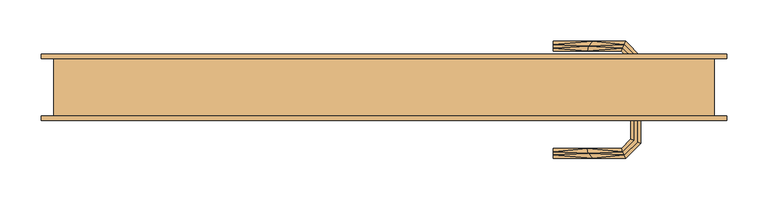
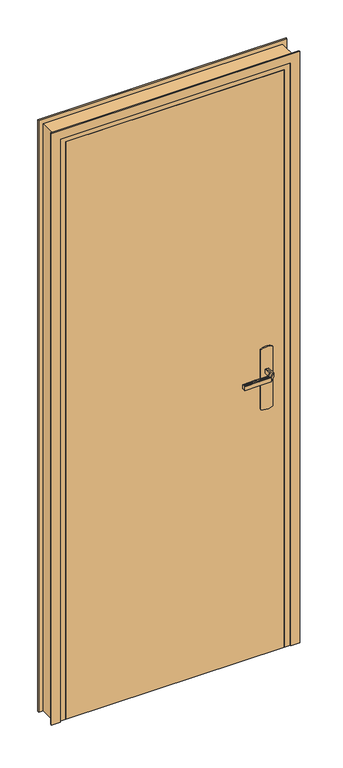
"""IFC4 building model written with IfcOpenShell, lengths in millimetres: door geometry, Portes - Int. Simple - PP (0.73m x 2.04m)."""

from ifc_helpers import new_model, si_unit, point, frame, frame_2d, origin, origin_with_axes, place, context, project, spatial, polyline, circle_curve, trimmed, segment, composite_curve, outline, extrude, faceted_brep, source, transform, mapped, element, save


def door_bff1ae0a(model_context):
    return source(origin(), model_context, "Body", "SolidModel", [
        extrude(outline(composite_curve([segment(polyline([(1080.0, 755.0), (870.0, 755.0)]), True, "CONTINUOUS"), segment(trimmed(circle_curve(frame_2d((904.6410162, 775.0)), 40.0), [point((870.0, 755.0))], [point((870.0, 795.0))], False, "CARTESIAN"), True, "CONTINUOUS"), segment(polyline([(870.0, 795.0), (1080.0, 795.0)]), True, "CONTINUOUS"), segment(trimmed(circle_curve(frame_2d((1045.3589838, 775.0)), 40.0), [point((1080.0, 795.0))], [point((1080.0, 755.0))], False, "CARTESIAN"), True, "CONTINUOUS")], self_intersect=False)), frame((0.0, 40.0, 0.0), z_axis=(0.0, 1.0, 0.0), x_axis=(0.0, 0.0, 1.0)), (0.0, 0.0, 1.0), 5.0),
        extrude(outline(polyline([(835.0, 40.0), (835.0, 0.0), (105.0, 0.0), (105.0, 40.0), (835.0, 40.0)])), origin_with_axes(), (0.0, 0.0, 1.0), 2040.0),
        extrude(outline(polyline([(0.0, 855.0), (0.0, 885.0), (2090.0, 885.0), (2090.0, 55.0), (0.0, 55.0), (0.0, 85.0), (2060.0, 85.0), (2060.0, 855.0), (0.0, 855.0)])), frame((0.0, 70.0, 0.0), z_axis=(0.0, 1.0, 0.0), x_axis=(0.0, 0.0, 1.0)), (0.0, 0.0, 1.0), 5.0),
        extrude(outline(polyline([(0.0, 855.0), (0.0, 885.0), (2090.0, 885.0), (2090.0, 55.0), (0.0, 55.0), (0.0, 85.0), (2060.0, 85.0), (2060.0, 855.0), (0.0, 855.0)])), frame((0.0, -5.0, 0.0), z_axis=(0.0, 1.0, 0.0), x_axis=(0.0, 0.0, 1.0)), (0.0, 0.0, 1.0), 5.0),
        faceted_brep([(769.0, -5.0, 1007.0), (772.9747013, -5.0, 1007.7804408), (777.0252987, -5.0, 1007.7804408), (781.0, -5.0, 1007.0), (781.0, -5.0, 993.0), (777.0252987, -5.0, 992.2195592), (772.9747013, -5.0, 992.2195592), (769.0, -5.0, 993.0), (781.0, -32.6509507, 1007.0), (777.0252987, -31.0045755, 1007.7804408), (772.9747013, -29.3267632, 1007.7804408), (759.2986025, -43.002862, 1007.7804408), (760.9764148, -47.0534593, 1007.7804408), (769.0, -27.680388, 1007.0), (769.0, -27.680388, 993.0), (772.9747013, -29.3267632, 992.2195592), (777.0252987, -31.0045755, 992.2195592), (760.9764148, -47.0534593, 992.2195592), (759.2986025, -43.002862, 992.2195592), (781.0, -32.6509507, 993.0), (762.62279, -51.0281607, 1007.0), (757.6522273, -39.0281607, 1007.0), (757.6522273, -39.0281607, 993.0), (762.62279, -51.0281607, 993.0), (674.9813594, -51.0281607, 993.0), (674.9813594, -51.0281607, 1007.0), (674.9813594, -47.0534593, 1007.7804408), (674.9813594, -43.002862, 1007.7804408), (674.9813594, -39.0281607, 1007.0), (674.9813594, -39.0281607, 993.0), (674.9813594, -43.002862, 992.2195592), (674.9813594, -47.0534593, 992.2195592), (722.6923028, -51.0281607, 1007.0), (717.1399809, -45.0281607, 1007.8786868), (716.3167933, -39.0281607, 1007.0), (716.3167933, -39.0281607, 993.0), (717.1399811, -45.0281608, 992.1213132), (722.6923104, -51.0281607, 993.0)], [[[0, 1, 2, 3, 4, 5, 6, 7]], [[8, 3, 2, 9]], [[9, 2, 1, 10, 11, 12]], [[10, 1, 0, 13]], [[7, 14, 13, 0]], [[7, 6, 15, 14]], [[15, 6, 5, 16, 17, 18]], [[5, 4, 19, 16]], [[3, 8, 19, 4]], [[20, 8, 9, 12]], [[11, 10, 13, 21]], [[14, 22, 21, 13]], [[22, 14, 15, 18]], [[17, 16, 19, 23]], [[8, 20, 23, 19]], [[24, 25, 26, 27, 28, 29, 30, 31]], [[32, 33, 26]], [[25, 32, 26]], [[12, 32, 20]], [[33, 11, 34]], [[21, 34, 11]], [[34, 28, 27]], [[26, 33, 27]], [[27, 33, 34]], [[12, 33, 32]], [[12, 11, 33]], [[34, 21, 22, 35, 29, 28]], [[35, 36, 30]], [[37, 31, 36]], [[22, 18, 35]], [[35, 30, 29]], [[24, 31, 37]], [[23, 37, 17]], [[37, 36, 17]], [[17, 36, 18]], [[18, 36, 35]], [[31, 30, 36]], [[37, 23, 20, 32, 25, 24]]]),
        faceted_brep([(769.0, 45.0, 993.0), (772.9747013, 45.0, 992.2195592), (777.0252987, 45.0, 992.2195592), (781.0, 45.0, 993.0), (781.0, 45.0, 1007.0), (777.0252987, 45.0, 1007.7804408), (772.9747013, 45.0, 1007.7804408), (769.0, 45.0, 1007.0), (769.0, 67.4852045, 1007.0), (769.0, 67.4852045, 993.0), (772.9747013, 69.1315797, 1007.7804408), (777.0252987, 70.8093921, 1007.7804408), (760.8389062, 86.9957845, 1007.7804408), (759.1610938, 82.9451872, 1007.7804408), (781.0, 72.4557673, 1007.0), (781.0, 72.4557673, 993.0), (777.0252987, 70.8093921, 992.2195592), (772.9747013, 69.1315797, 992.2195592), (759.1610938, 82.9451872, 992.2195592), (760.8389062, 86.9957845, 992.2195592), (757.5147186, 78.9704859, 1007.0), (757.5147186, 78.9704859, 993.0), (762.4852814, 90.9704859, 1007.0), (762.4852814, 90.9704859, 993.0), (674.9542163, 78.9704859, 1007.0), (674.9542163, 82.9451872, 1007.7804408), (674.9542163, 86.9957845, 1007.7804408), (674.9542163, 90.9704859, 1007.0), (674.9542163, 90.9704859, 993.0), (674.9542163, 86.9957845, 992.2195592), (674.9542163, 82.9451872, 992.2195592), (674.9542163, 78.9704859, 993.0), (716.2344794, 78.9704859, 993.0), (716.2344675, 78.9704859, 1007.0), (717.0576551, 84.9704859, 1007.8786868), (722.5547942, 90.9704859, 1007.0), (722.5547957, 90.9704859, 993.0), (717.0576549, 84.9704858, 992.1213132)], [[[0, 1, 2, 3, 4, 5, 6, 7]], [[7, 8, 9, 0]], [[7, 6, 10, 8]], [[10, 6, 5, 11, 12, 13]], [[5, 4, 14, 11]], [[15, 14, 4, 3]], [[15, 3, 2, 16]], [[16, 2, 1, 17, 18, 19]], [[17, 1, 0, 9]], [[8, 20, 21, 9]], [[20, 8, 10, 13]], [[11, 14, 22, 12]], [[15, 23, 22, 14]], [[23, 15, 16, 19]], [[18, 17, 9, 21]], [[24, 25, 26, 27, 28, 29, 30, 31]], [[32, 21, 20, 33, 24, 31]], [[33, 34, 25]], [[35, 26, 34]], [[20, 13, 33]], [[33, 25, 24]], [[27, 26, 35]], [[22, 35, 12]], [[35, 34, 12]], [[12, 34, 13]], [[13, 34, 33]], [[26, 25, 34]], [[35, 22, 23, 36, 28, 27]], [[36, 37, 29]], [[28, 36, 29]], [[19, 36, 23]], [[37, 18, 32]], [[21, 32, 18]], [[32, 31, 30]], [[29, 37, 30]], [[30, 37, 32]], [[19, 37, 36]], [[19, 18, 37]]]),
        faceted_brep([(870.0, 70.0, 0.0), (870.0, 0.0, 0.0), (835.0, 0.0, 0.0), (835.0, 40.0, 0.0), (820.0, 40.0, 0.0), (820.0, 70.0, 0.0), (870.0, 70.0, 2075.0), (870.0, 0.0, 2075.0), (820.0, 70.0, 2025.0), (120.0, 70.0, 2025.0), (120.0, 70.0, 0.0), (70.0, 70.0, 0.0), (70.0, 70.0, 2075.0), (820.0, 40.0, 2025.0), (835.0, 40.0, 2040.0), (105.0, 40.0, 2040.0), (105.0, 40.0, 0.0), (120.0, 40.0, 0.0), (120.0, 40.0, 2025.0), (835.0, 0.0, 2040.0), (70.0, 0.0, 2075.0), (70.0, 0.0, 0.0), (105.0, 0.0, 0.0), (105.0, 0.0, 2040.0)], [[[0, 1, 2, 3, 4, 5]], [[1, 0, 6, 7]], [[0, 5, 8, 9, 10, 11, 12, 6]], [[5, 4, 13, 8]], [[4, 3, 14, 15, 16, 17, 18, 13]], [[3, 2, 19, 14]], [[2, 1, 7, 20, 21, 22, 23, 19]], [[20, 12, 11, 21]], [[22, 21, 11, 10, 17, 16]], [[9, 18, 17, 10]], [[15, 23, 22, 16]], [[7, 6, 12, 20]], [[8, 13, 18, 9]], [[14, 19, 23, 15]]]),
        extrude(outline(composite_curve([segment(polyline([(870.0, 795.0), (1080.0, 795.0)]), True, "CONTINUOUS"), segment(trimmed(circle_curve(frame_2d((1045.3589838, 775.0)), 40.0), [point((1080.0, 795.0))], [point((1080.0, 755.0))], False, "CARTESIAN"), True, "CONTINUOUS"), segment(polyline([(1080.0, 755.0), (870.0, 755.0)]), True, "CONTINUOUS"), segment(trimmed(circle_curve(frame_2d((904.6410162, 775.0)), 40.0), [point((870.0, 755.0))], [point((870.0, 795.0))], False, "CARTESIAN"), True, "CONTINUOUS")], self_intersect=False)), frame((0.0, -5.0, 0.0), z_axis=(0.0, 1.0, 0.0), x_axis=(0.0, 0.0, 1.0)), (0.0, 0.0, 1.0), 5.0),
    ])


if __name__ == "__main__":
    model = new_model("IFC4")
    model_context = context("Model", 3, world=origin())
    ifc_project = project(units=[si_unit("LENGTHUNIT", "METRE", prefix="MILLI")], contexts=[model_context])
    site = spatial("IfcSite", under=ifc_project)
    building = spatial("IfcBuilding", under=site)
    placement = place(None, origin())
    door_shape = door_bff1ae0a(model_context)
    element("IfcDoor", 1, ObjectType="Portes - Int. Simple - PP (0.73m x 2.04m)", at=placement, inside=building, context=model_context, shape_type="MappedRepresentation", body=[
        mapped(door_shape, transform((0.0, 0.0, 0.0), x_axis=(1.0, 0.0, 0.0), y_axis=(0.0, 1.0, 0.0), z_axis=(0.0, 0.0, 1.0))),
    ])
    save(model, "model.ifc")
